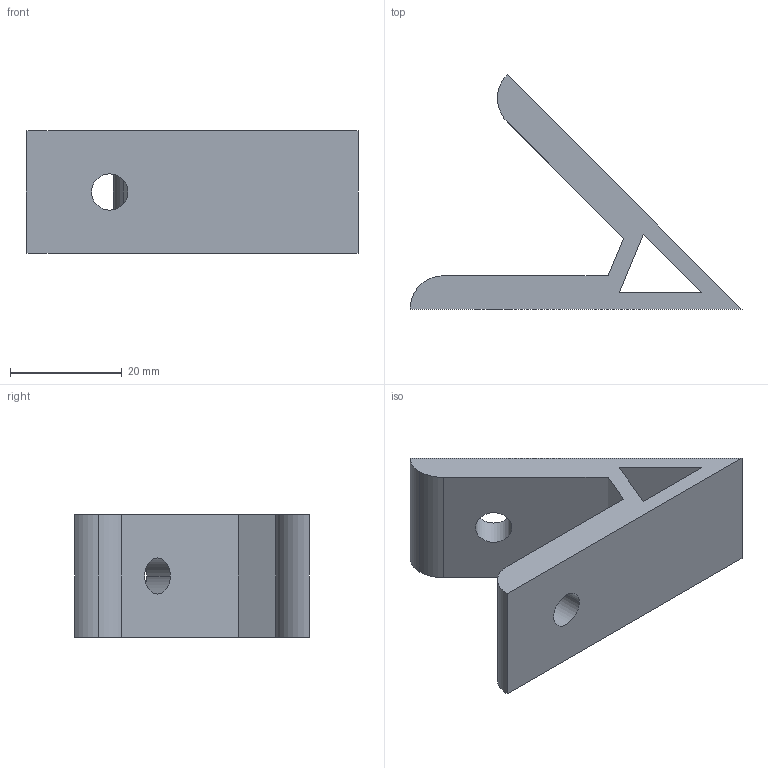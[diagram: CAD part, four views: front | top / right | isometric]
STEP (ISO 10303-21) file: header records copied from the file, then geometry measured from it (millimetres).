
FILE_DESCRIPTION (( 'STEP AP203' ), '1' );
FILE_NAME ('65－CE-30-45度.STEP', '2015-07-09T07:57:57', ( '' ), ( '' ), 'SwSTEP 2.0', 'SolidWorks 2013', '' );
FILE_SCHEMA (( 'CONFIG_CONTROL_DESIGN' ));
Length unit declared in the file: millimetre
Products named in the file (1): 65ㄜCE-30-45僅
Bounding box: 59.5 x 42.07 x 22 mm (x, y, z)
Volume: 12069.1 mm3; surface area: 6634.1 mm2
Topology: 1 solids, 1 shells, 17 faces, 45 edges, 30 vertices
Faces by surface type: plane 10, cylinder 7
Entity records: 622 total; most frequent: DIRECTION 95, CARTESIAN_POINT 93, ORIENTED_EDGE 90, EDGE_CURVE 45, AXIS2_PLACEMENT_3D 32, VECTOR 31, LINE 31, VERTEX_POINT 30
